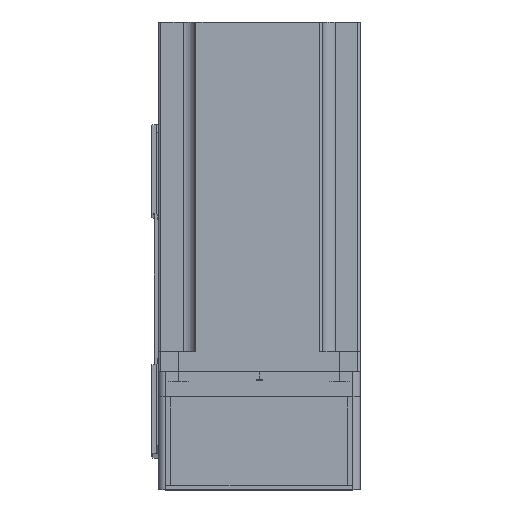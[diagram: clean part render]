
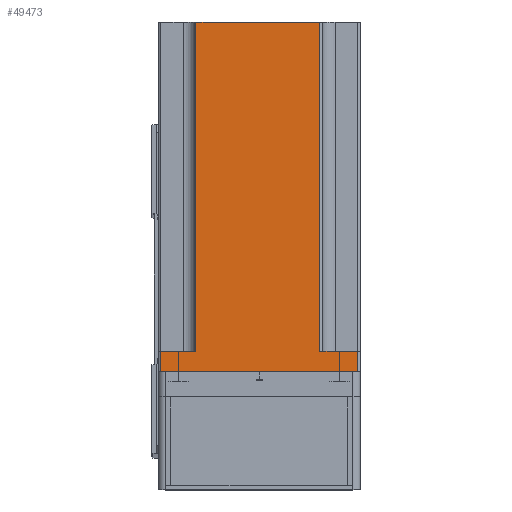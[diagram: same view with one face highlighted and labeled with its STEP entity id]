
A CAD part, top view. The second image highlights one B-rep face of the part: STEP entity #49473.
In plain terms, the highlighted planar face has unit normal (0, 0, 1) as drawn and (-1, 0, 0) by its records, which use the part's own axes.
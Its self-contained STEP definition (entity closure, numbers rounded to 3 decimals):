
#12 = VERTEX_POINT ( 'NONE', #2567 ) ;
#567 = VECTOR ( 'NONE', #45420, 1000. ) ;
#651 = LINE ( 'NONE', #33482, #9785 ) ;
#1617 = VERTEX_POINT ( 'NONE', #32223 ) ;
#1788 = CARTESIAN_POINT ( 'NONE',  ( -40., -39., 0. ) ) ;
#2344 = CARTESIAN_POINT ( 'NONE',  ( -40., -39., 8. ) ) ;
#2567 = CARTESIAN_POINT ( 'NONE',  ( -40., -24., 138.3 ) ) ;
#3054 = DIRECTION ( 'NONE',  ( 0., 0., -1. ) ) ;
#4935 = CARTESIAN_POINT ( 'NONE',  ( -40., 40., 8. ) ) ;
#6849 = ORIENTED_EDGE ( 'NONE', *, *, #45980, .F. ) ;
#7367 = ORIENTED_EDGE ( 'NONE', *, *, #45132, .F. ) ;
#8140 = DIRECTION ( 'NONE',  ( 0., 0., 1. ) ) ;
#8814 = ORIENTED_EDGE ( 'NONE', *, *, #45056, .T. ) ;
#9785 = VECTOR ( 'NONE', #17960, 1000. ) ;
#12238 = DIRECTION ( 'NONE',  ( 0., -1., 0. ) ) ;
#12499 = VERTEX_POINT ( 'NONE', #48747 ) ;
#12672 = VECTOR ( 'NONE', #3054, 1000. ) ;
#14582 = LINE ( 'NONE', #33489, #43246 ) ;
#16222 = CARTESIAN_POINT ( 'NONE',  ( -40., -40., 138.3 ) ) ;
#16279 = EDGE_CURVE ( 'NONE', #12499, #44605, #37516, .T. ) ;
#16908 = VECTOR ( 'NONE', #12238, 1000. ) ;
#17081 = LINE ( 'NONE', #16222, #27434 ) ;
#17097 = VERTEX_POINT ( 'NONE', #1788 ) ;
#17648 = DIRECTION ( 'NONE',  ( 0., 0., 1. ) ) ;
#17960 = DIRECTION ( 'NONE',  ( 0., -1., 0. ) ) ;
#19482 = DIRECTION ( 'NONE',  ( 1., 0., 0. ) ) ;
#19638 = EDGE_CURVE ( 'NONE', #17097, #41986, #14582, .T. ) ;
#19711 = EDGE_CURVE ( 'NONE', #28438, #12, #32852, .T. ) ;
#22471 = CARTESIAN_POINT ( 'NONE',  ( -40., 25., 138.3 ) ) ;
#22541 = EDGE_CURVE ( 'NONE', #37610, #12, #17081, .T. ) ;
#22873 = LINE ( 'NONE', #39281, #32010 ) ;
#23253 = PLANE ( 'NONE',  #48863 ) ;
#27124 = VECTOR ( 'NONE', #39966, 1000. ) ;
#27434 = VECTOR ( 'NONE', #39562, 1000. ) ;
#28438 = VERTEX_POINT ( 'NONE', #39151 ) ;
#28698 = ORIENTED_EDGE ( 'NONE', *, *, #22541, .F. ) ;
#29106 = EDGE_LOOP ( 'NONE', ( #7367, #36920, #28698, #6849, #34085, #8814, #34467, #42059 ) ) ;
#29894 = CARTESIAN_POINT ( 'NONE',  ( -40., -24., 138.3 ) ) ;
#31284 = FACE_OUTER_BOUND ( 'NONE', #29106, .T. ) ;
#32010 = VECTOR ( 'NONE', #8140, 1000. ) ;
#32223 = CARTESIAN_POINT ( 'NONE',  ( -40., 39., 0. ) ) ;
#32852 = LINE ( 'NONE', #29894, #567 ) ;
#33385 = LINE ( 'NONE', #34195, #12672 ) ;
#33482 = CARTESIAN_POINT ( 'NONE',  ( -40., -40., 0. ) ) ;
#33489 = CARTESIAN_POINT ( 'NONE',  ( -40., -39., 138.3 ) ) ;
#34085 = ORIENTED_EDGE ( 'NONE', *, *, #16279, .T. ) ;
#34195 = CARTESIAN_POINT ( 'NONE',  ( -40., 39., 138.3 ) ) ;
#34467 = ORIENTED_EDGE ( 'NONE', *, *, #34943, .T. ) ;
#34765 = CARTESIAN_POINT ( 'NONE',  ( -40., 39., 8. ) ) ;
#34943 = EDGE_CURVE ( 'NONE', #1617, #17097, #651, .T. ) ;
#35577 = CARTESIAN_POINT ( 'NONE',  ( -40., -40., 8. ) ) ;
#36920 = ORIENTED_EDGE ( 'NONE', *, *, #19711, .T. ) ;
#37516 = LINE ( 'NONE', #4935, #27124 ) ;
#37610 = VERTEX_POINT ( 'NONE', #22471 ) ;
#39151 = CARTESIAN_POINT ( 'NONE',  ( -40., -24., 8. ) ) ;
#39281 = CARTESIAN_POINT ( 'NONE',  ( -40., 25., 8. ) ) ;
#39562 = DIRECTION ( 'NONE',  ( 0., -1., 0. ) ) ;
#39966 = DIRECTION ( 'NONE',  ( 0., 1., 0. ) ) ;
#41986 = VERTEX_POINT ( 'NONE', #2344 ) ;
#42059 = ORIENTED_EDGE ( 'NONE', *, *, #19638, .T. ) ;
#42869 = CARTESIAN_POINT ( 'NONE',  ( -40., -40., 138.3 ) ) ;
#43246 = VECTOR ( 'NONE', #17648, 1000. ) ;
#44605 = VERTEX_POINT ( 'NONE', #34765 ) ;
#45056 = EDGE_CURVE ( 'NONE', #44605, #1617, #33385, .T. ) ;
#45132 = EDGE_CURVE ( 'NONE', #28438, #41986, #46794, .T. ) ;
#45420 = DIRECTION ( 'NONE',  ( 0., 0., 1. ) ) ;
#45980 = EDGE_CURVE ( 'NONE', #12499, #37610, #22873, .T. ) ;
#46791 = DIRECTION ( 'NONE',  ( 0., 0., -1. ) ) ;
#46794 = LINE ( 'NONE', #35577, #16908 ) ;
#48747 = CARTESIAN_POINT ( 'NONE',  ( -40., 25., 8. ) ) ;
#48863 = AXIS2_PLACEMENT_3D ( 'NONE', #42869, #19482, #46791 ) ;
#49473 = ADVANCED_FACE ( 'NONE', ( #31284 ), #23253, .F. ) ;
